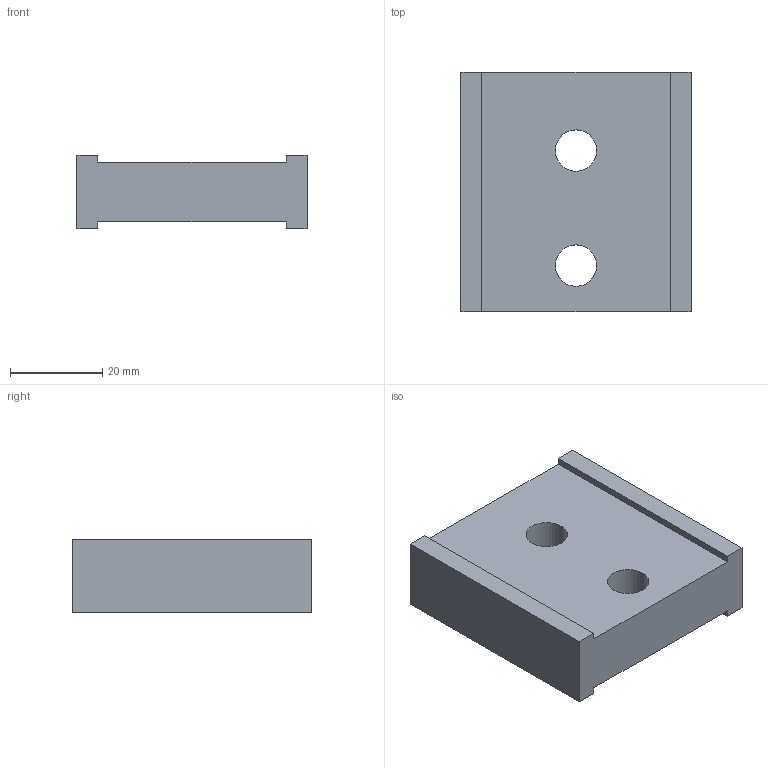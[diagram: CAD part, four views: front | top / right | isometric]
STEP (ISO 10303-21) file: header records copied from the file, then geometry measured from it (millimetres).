
FILE_DESCRIPTION (( 'STEP AP214' ), '1' );
FILE_NAME ('R1 SLA13.step', '2017-04-05T07:50:37', ( '' ), ( '' ), 'SwSTEP 2.0', 'SolidWorks 2015', '' );
FILE_SCHEMA (( 'AUTOMOTIVE_DESIGN' ));
Length unit declared in the file: millimetre
Products named in the file (1): R1 SLA13
Bounding box: 50 x 52 x 16 mm (x, y, z)
Volume: 33550 mm3; surface area: 9010.7 mm2
Topology: 1 solids, 1 shells, 18 faces, 48 edges, 32 vertices
Faces by surface type: plane 14, cylinder 4
Entity records: 602 total; most frequent: CARTESIAN_POINT 99, ORIENTED_EDGE 96, DIRECTION 94, EDGE_CURVE 48, VECTOR 40, LINE 40, VERTEX_POINT 32, AXIS2_PLACEMENT_3D 27
